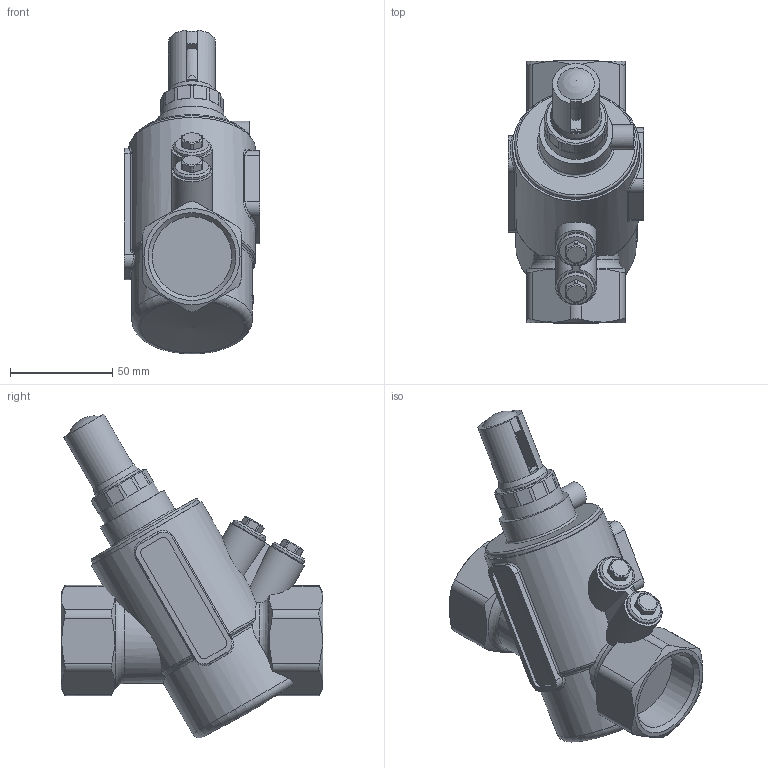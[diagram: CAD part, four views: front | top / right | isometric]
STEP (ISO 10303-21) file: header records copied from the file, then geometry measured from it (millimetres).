
FILE_DESCRIPTION(('STEP AP203'), '1');
FILE_NAME('VT.043.G.0702', '2024-09-18T06:55:12', ('User'), ('Vesta'), 'C3D Converter', 'C3D Toolkit', '');
FILE_SCHEMA(('CONFIG_CONTROL_DESIGN'));
Length unit declared in the file: millimetre
Bounding box: 66 x 128 x 158.29 mm (x, y, z)
Volume: 429584.8 mm3; surface area: 50060 mm2
Topology: 1 solids, 1 shells, 411 faces, 1114 edges, 730 vertices
Faces by surface type: plane 165, extrusion 124, cylinder 70, cone 18, bspline 17, torus 16, sphere 1
Full cylindrical faces by diameter (mm): 6.647 x1, 12 x1, 16.2 x2, 18 x2, 25 x1, 31 x1, 38.953 x2, 60 x1, 62.2 x1
Entity records: 19346 total; most frequent: CARTESIAN_POINT 9919, ORIENTED_EDGE 2174, DIRECTION 1453, EDGE_CURVE 1087, VERTEX_POINT 728, VECTOR 597, B_SPLINE_CURVE_WITH_KNOTS 551, LINE 473
